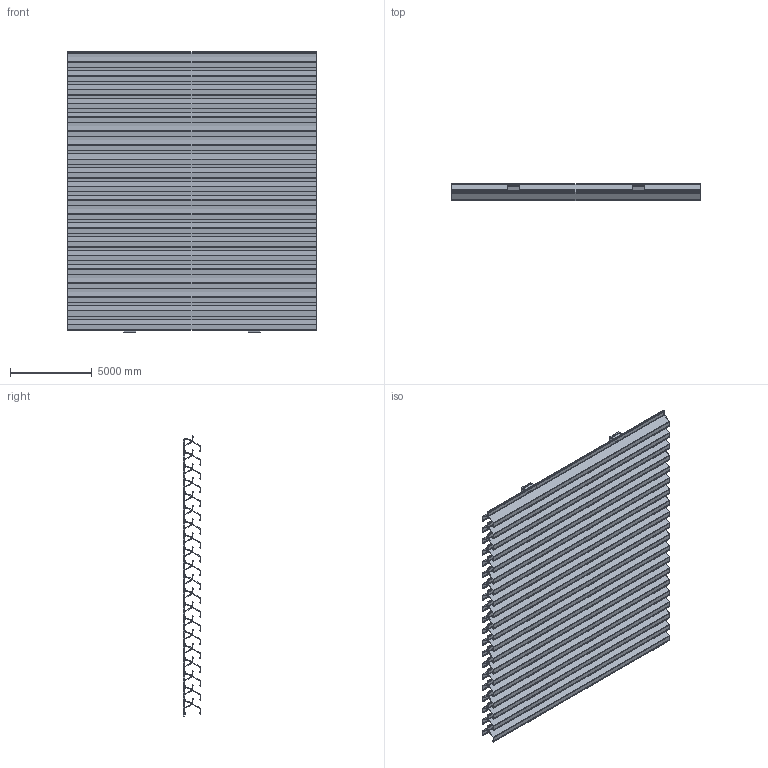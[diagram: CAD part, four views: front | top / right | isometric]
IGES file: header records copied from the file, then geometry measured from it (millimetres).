
Global section: file name: 3D_L_033V; native system: AutoCAD 2023 - English; preprocessor: Autodesk Translation Framework DWG producer (atf_dwg_producer); organization: unknown; date: 20260202.112420; units: inch
Bounding box: 15240 x 1055.37 x 17149.17 mm (x, y, z)
Volume: 25120459901.3 mm3; surface area: 1489596102.2 mm2
Topology: 20 solids, 20 shells, 2720 faces, 8560 edges, 5600 vertices
Faces by surface type: bspline 2720
